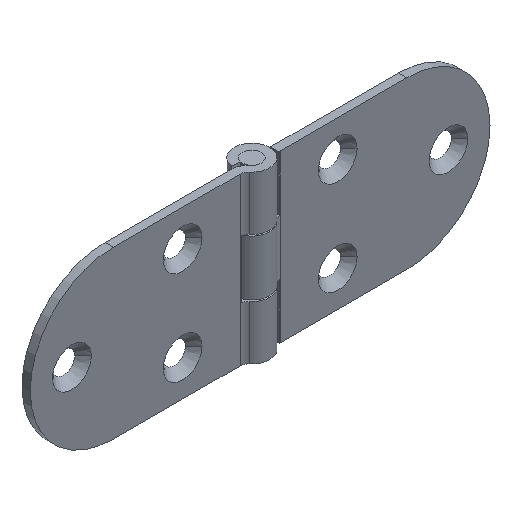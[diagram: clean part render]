
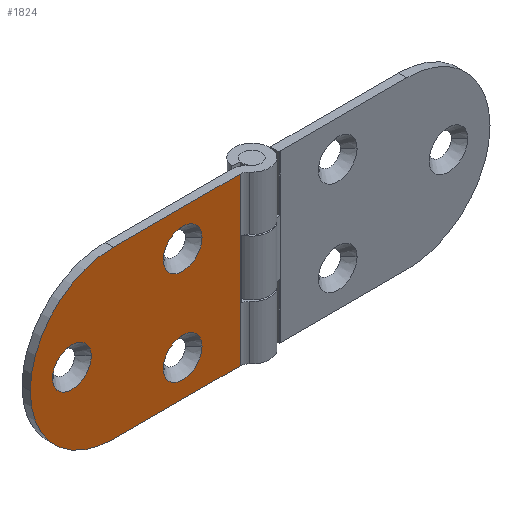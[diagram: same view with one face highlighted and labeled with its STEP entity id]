
A CAD part, isometric view. The second image highlights one B-rep face of the part: STEP entity #1824.
In plain terms, the highlighted planar face has unit normal (0, -1, 0).
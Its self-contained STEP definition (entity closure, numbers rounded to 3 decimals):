
#955=CARTESIAN_POINT('',(17.58,74.645,15.));
#956=VERTEX_POINT('',#955);
#965=CARTESIAN_POINT('',(32.58,74.645,30.0));
#966=VERTEX_POINT('',#965);
#967=CARTESIAN_POINT('',(32.58,74.645,15.0));
#968=DIRECTION('',(0.0,-1.0,0.0));
#969=DIRECTION('',(-1.0,0.0,0.0));
#970=AXIS2_PLACEMENT_3D('',#967,#968,#969);
#971=CIRCLE('',#970,15.0);
#972=EDGE_CURVE('',#966,#956,#971,.T.);
#999=CARTESIAN_POINT('',(28.58,74.645,15.0));
#1000=VERTEX_POINT('',#999);
#1016=CARTESIAN_POINT('',(21.58,74.645,15.0));
#1017=VERTEX_POINT('',#1016);
#1024=CARTESIAN_POINT('',(25.08,74.645,15.0));
#1025=DIRECTION('',(0.0,1.0,0.0));
#1026=DIRECTION('',(1.0,0.0,0.0));
#1027=AXIS2_PLACEMENT_3D('',#1024,#1025,#1026);
#1028=CIRCLE('',#1027,3.5);
#1029=EDGE_CURVE('',#1000,#1017,#1028,.T.);
#1041=CARTESIAN_POINT('',(48.58,74.645,23.5));
#1042=VERTEX_POINT('',#1041);
#1058=CARTESIAN_POINT('',(41.58,74.645,23.5));
#1059=VERTEX_POINT('',#1058);
#1066=CARTESIAN_POINT('',(45.08,74.645,23.5));
#1067=DIRECTION('',(0.0,1.0,0.0));
#1068=DIRECTION('',(1.0,0.0,0.0));
#1069=AXIS2_PLACEMENT_3D('',#1066,#1067,#1068);
#1070=CIRCLE('',#1069,3.5);
#1071=EDGE_CURVE('',#1042,#1059,#1070,.T.);
#1083=CARTESIAN_POINT('',(48.58,74.645,6.5));
#1084=VERTEX_POINT('',#1083);
#1100=CARTESIAN_POINT('',(41.58,74.645,6.5));
#1101=VERTEX_POINT('',#1100);
#1108=CARTESIAN_POINT('',(45.08,74.645,6.5));
#1109=DIRECTION('',(0.0,1.0,0.0));
#1110=DIRECTION('',(1.0,0.0,0.0));
#1111=AXIS2_PLACEMENT_3D('',#1108,#1109,#1110);
#1112=CIRCLE('',#1111,3.5);
#1113=EDGE_CURVE('',#1084,#1101,#1112,.T.);
#1567=CARTESIAN_POINT('',(55.462,74.645,30.0));
#1568=VERTEX_POINT('',#1567);
#1576=CARTESIAN_POINT('',(55.462,74.645,0.0));
#1577=VERTEX_POINT('',#1576);
#1578=CARTESIAN_POINT('',(55.462,74.645,30.0));
#1579=DIRECTION('',(0.0,0.0,-1.0));
#1580=VECTOR('',#1579,30.0);
#1581=LINE('',#1578,#1580);
#1582=EDGE_CURVE('',#1568,#1577,#1581,.T.);
#1601=CARTESIAN_POINT('',(45.08,74.645,6.5));
#1602=DIRECTION('',(0.0,1.0,0.0));
#1603=DIRECTION('',(1.0,0.0,0.0));
#1604=AXIS2_PLACEMENT_3D('',#1601,#1602,#1603);
#1605=CIRCLE('',#1604,3.5);
#1606=EDGE_CURVE('',#1101,#1084,#1605,.T.);
#1625=CARTESIAN_POINT('',(45.08,74.645,23.5));
#1626=DIRECTION('',(0.0,1.0,0.0));
#1627=DIRECTION('',(1.0,0.0,0.0));
#1628=AXIS2_PLACEMENT_3D('',#1625,#1626,#1627);
#1629=CIRCLE('',#1628,3.5);
#1630=EDGE_CURVE('',#1059,#1042,#1629,.T.);
#1649=CARTESIAN_POINT('',(25.08,74.645,15.0));
#1650=DIRECTION('',(0.0,1.0,0.0));
#1651=DIRECTION('',(1.0,0.0,0.0));
#1652=AXIS2_PLACEMENT_3D('',#1649,#1650,#1651);
#1653=CIRCLE('',#1652,3.5);
#1654=EDGE_CURVE('',#1017,#1000,#1653,.T.);
#1682=CARTESIAN_POINT('',(32.58,74.645,0.0));
#1683=VERTEX_POINT('',#1682);
#1690=CARTESIAN_POINT('',(32.58,74.645,15.0));
#1691=DIRECTION('',(0.0,-1.0,0.0));
#1692=DIRECTION('',(-1.0,0.0,0.0));
#1693=AXIS2_PLACEMENT_3D('',#1690,#1691,#1692);
#1694=CIRCLE('',#1693,15.0);
#1695=EDGE_CURVE('',#956,#1683,#1694,.T.);
#1727=CARTESIAN_POINT('',(32.58,74.645,0.0));
#1728=DIRECTION('',(1.0,0.0,0.0));
#1729=VECTOR('',#1728,22.882);
#1730=LINE('',#1727,#1729);
#1731=EDGE_CURVE('',#1683,#1577,#1730,.T.);
#1795=CARTESIAN_POINT('',(17.58,74.645,30.0));
#1796=DIRECTION('',(0.0,-1.0,0.0));
#1797=DIRECTION('',(0.0,0.0,1.0));
#1798=AXIS2_PLACEMENT_3D('',#1795,#1796,#1797);
#1799=PLANE('',#1798);
#1800=ORIENTED_EDGE('',*,*,#972,.T.);
#1801=ORIENTED_EDGE('',*,*,#1695,.T.);
#1802=ORIENTED_EDGE('',*,*,#1731,.T.);
#1803=ORIENTED_EDGE('',*,*,#1582,.F.);
#1804=CARTESIAN_POINT('',(32.58,74.645,30.0));
#1805=DIRECTION('',(1.0,0.0,0.0));
#1806=VECTOR('',#1805,22.882);
#1807=LINE('',#1804,#1806);
#1808=EDGE_CURVE('',#966,#1568,#1807,.T.);
#1809=ORIENTED_EDGE('',*,*,#1808,.F.);
#1810=EDGE_LOOP('',(#1800,#1801,#1802,#1803,#1809));
#1811=FACE_OUTER_BOUND('',#1810,.T.);
#1812=ORIENTED_EDGE('',*,*,#1113,.T.);
#1813=ORIENTED_EDGE('',*,*,#1606,.T.);
#1814=EDGE_LOOP('',(#1812,#1813));
#1815=FACE_BOUND('',#1814,.T.);
#1816=ORIENTED_EDGE('',*,*,#1071,.T.);
#1817=ORIENTED_EDGE('',*,*,#1630,.T.);
#1818=EDGE_LOOP('',(#1816,#1817));
#1819=FACE_BOUND('',#1818,.T.);
#1820=ORIENTED_EDGE('',*,*,#1029,.T.);
#1821=ORIENTED_EDGE('',*,*,#1654,.T.);
#1822=EDGE_LOOP('',(#1820,#1821));
#1823=FACE_BOUND('',#1822,.T.);
#1824=ADVANCED_FACE('',(#1811,#1815,#1819,#1823),#1799,.T.);
